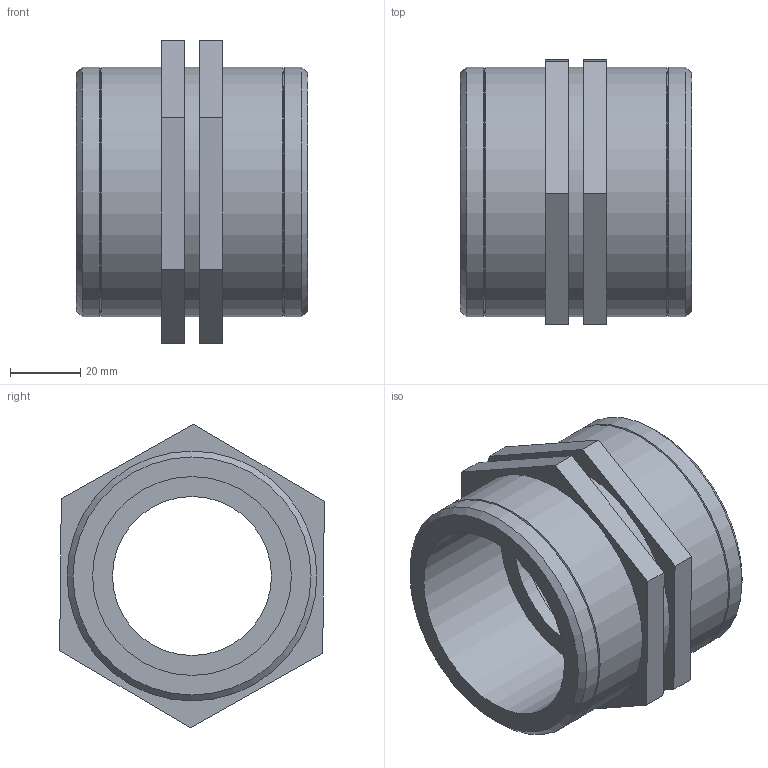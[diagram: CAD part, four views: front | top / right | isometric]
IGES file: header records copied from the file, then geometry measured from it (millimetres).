
Global section: file name: 050107020_0501070200A.ipt; native system: Autodesk Inventor 2015; preprocessor: unknown; author: KIM; date: 20170618.093106; units: millimetre
Bounding box: 66 x 75.45 x 86.6 mm (x, y, z)
Volume: 111371.3 mm3; surface area: 34957.4 mm2
Topology: 1 solids, 1 shells, 34 faces, 76 edges, 50 vertices
Faces by surface type: plane 20, cone 6, cylinder 5, revolution 3
Full cylindrical faces by diameter (mm): 71.25 x5
